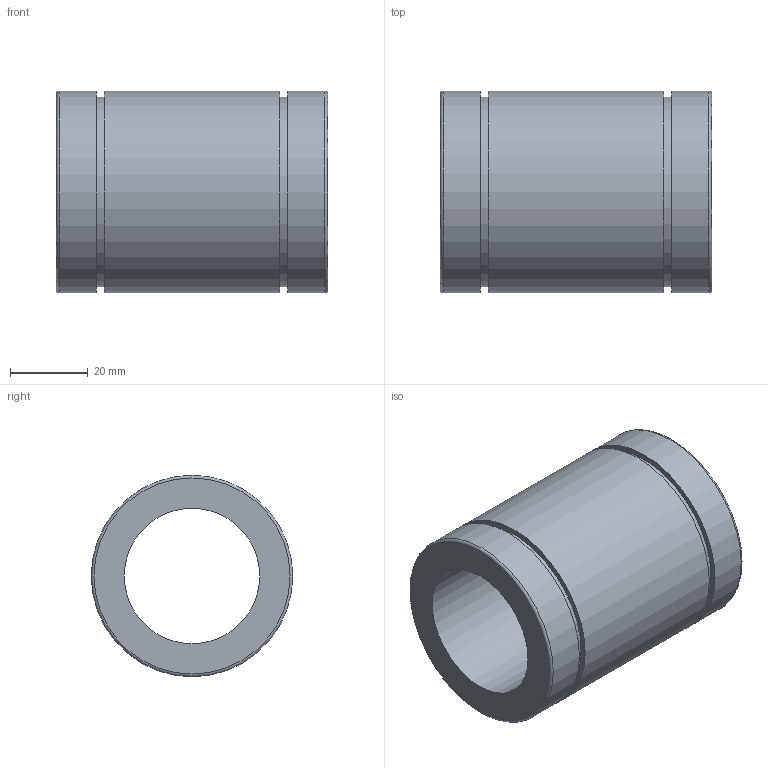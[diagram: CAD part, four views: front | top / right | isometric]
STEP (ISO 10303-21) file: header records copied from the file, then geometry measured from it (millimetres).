
FILE_DESCRIPTION(('STEP AP203'),'1');
FILE_NAME('//192.168.1.1/share/s-4 技術開発/s-4-13_CAD/03_見直し済み/001 修正済み/N/N_TOP/N-35.step','2020-04-02T23:55:17',(' '),(' '),'Spatial InterOp 3D',' ',' ');
FILE_SCHEMA(('CONFIG_CONTROL_DESIGN'));
Length unit declared in the file: millimetre
Products named in the file (1): 1
Bounding box: 70 x 52 x 52 mm (x, y, z)
Volume: 80278.6 mm3; surface area: 22269.2 mm2
Topology: 1 solids, 1 shells, 14 faces, 25 edges, 17 vertices
Faces by surface type: cylinder 6, plane 6, torus 2
Full cylindrical faces by diameter (mm): 35 x1, 49 x2, 52 x3
Entity records: 332 total; most frequent: DIRECTION 58, CARTESIAN_POINT 43, AXIS2_PLACEMENT_3D 29, EDGE_LOOP 28, ORIENTED_EDGE 28, FACE_OUTER_BOUND 22, ADVANCED_FACE 14, EDGE_CURVE 14
